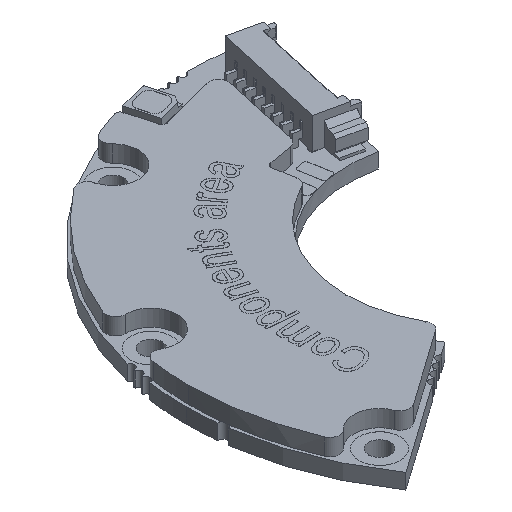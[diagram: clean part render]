
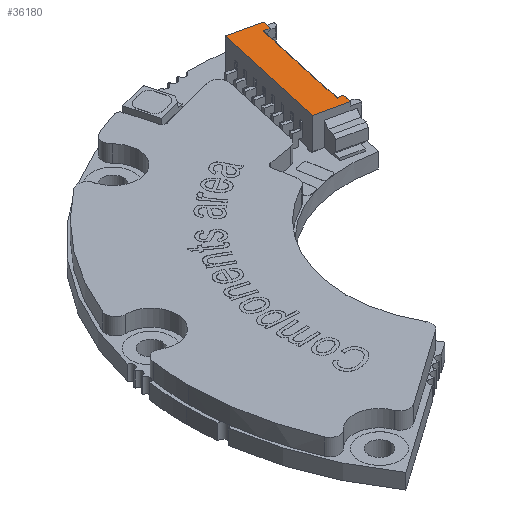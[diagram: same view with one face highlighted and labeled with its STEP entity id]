
A CAD part, isometric view. The second image highlights one B-rep face of the part: STEP entity #36180.
In plain terms, the highlighted planar face has unit normal (0, 0, 1).
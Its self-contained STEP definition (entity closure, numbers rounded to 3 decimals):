
#838 = PLANE ( 'NONE',  #18734 ) ;
#1149 = CARTESIAN_POINT ( 'NONE',  ( 4.166, 25.706, 3.45 ) ) ;
#1921 = VERTEX_POINT ( 'NONE', #12847 ) ;
#2156 = VECTOR ( 'NONE', #2566, 1000. ) ;
#2502 = LINE ( 'NONE', #16190, #21010 ) ;
#2519 = EDGE_CURVE ( 'NONE', #25811, #37664, #33019, .T. ) ;
#2566 = DIRECTION ( 'NONE',  ( -0.976, 0.217, 0. ) ) ;
#2722 = EDGE_CURVE ( 'NONE', #31595, #1921, #28006, .T. ) ;
#2728 = ORIENTED_EDGE ( 'NONE', *, *, #2519, .F. ) ;
#2752 = CARTESIAN_POINT ( 'NONE',  ( -0.88, 15.755, 3.45 ) ) ;
#4497 = LINE ( 'NONE', #11312, #18925 ) ;
#8965 = VECTOR ( 'NONE', #41570, 1000. ) ;
#11015 = EDGE_CURVE ( 'NONE', #25188, #43449, #41128, .T. ) ;
#11312 = CARTESIAN_POINT ( 'NONE',  ( 4.422, 26.853, 3.45 ) ) ;
#12847 = CARTESIAN_POINT ( 'NONE',  ( 4.723, 25.582, 3.45 ) ) ;
#12971 = ORIENTED_EDGE ( 'NONE', *, *, #25477, .T. ) ;
#14366 = EDGE_CURVE ( 'NONE', #1921, #37515, #2502, .T. ) ;
#14682 = CARTESIAN_POINT ( 'NONE',  ( -0.798, 15.737, 3.45 ) ) ;
#15142 = ORIENTED_EDGE ( 'NONE', *, *, #42576, .T. ) ;
#16010 = VECTOR ( 'NONE', #31090, 1000. ) ;
#16081 = ORIENTED_EDGE ( 'NONE', *, *, #2722, .T. ) ;
#16190 = CARTESIAN_POINT ( 'NONE',  ( 4.978, 26.729, 3.45 ) ) ;
#17159 = VECTOR ( 'NONE', #22285, 1000. ) ;
#17531 = ORIENTED_EDGE ( 'NONE', *, *, #14366, .T. ) ;
#18173 = ORIENTED_EDGE ( 'NONE', *, *, #18484, .F. ) ;
#18484 = EDGE_CURVE ( 'NONE', #37664, #37144, #38428, .T. ) ;
#18734 = AXIS2_PLACEMENT_3D ( 'NONE', #18870, #42377, #28649 ) ;
#18870 = CARTESIAN_POINT ( 'NONE',  ( 1.742, 27.449, 3.45 ) ) ;
#18925 = VECTOR ( 'NONE', #24845, 1000. ) ;
#19373 = LINE ( 'NONE', #32880, #16010 ) ;
#19724 = LINE ( 'NONE', #26847, #34673 ) ;
#21010 = VECTOR ( 'NONE', #27036, 1000. ) ;
#21193 = CARTESIAN_POINT ( 'NONE',  ( 2.578, 15.948, 3.45 ) ) ;
#21336 = DIRECTION ( 'NONE',  ( 0.976, -0.217, 0. ) ) ;
#22285 = DIRECTION ( 'NONE',  ( 0.217, 0.976, 0. ) ) ;
#22700 = ORIENTED_EDGE ( 'NONE', *, *, #11015, .T. ) ;
#24845 = DIRECTION ( 'NONE',  ( 0.217, 0.976, 0. ) ) ;
#25188 = VERTEX_POINT ( 'NONE', #21193 ) ;
#25376 = EDGE_LOOP ( 'NONE', ( #22700, #15142, #16081, #17531, #27472, #18173, #2728, #12971 ) ) ;
#25477 = EDGE_CURVE ( 'NONE', #25811, #25188, #19373, .T. ) ;
#25811 = VERTEX_POINT ( 'NONE', #33044 ) ;
#26847 = CARTESIAN_POINT ( 'NONE',  ( 5.936, 26.275, 3.45 ) ) ;
#27036 = DIRECTION ( 'NONE',  ( 0.217, 0.976, 0. ) ) ;
#27472 = ORIENTED_EDGE ( 'NONE', *, *, #28862, .F. ) ;
#27859 = CARTESIAN_POINT ( 'NONE',  ( -0.658, 16.668, 3.45 ) ) ;
#28006 = LINE ( 'NONE', #34577, #33216 ) ;
#28649 = DIRECTION ( 'NONE',  ( -0.217, -0.976, 0. ) ) ;
#28862 = EDGE_CURVE ( 'NONE', #37144, #37515, #19724, .T. ) ;
#29942 = CARTESIAN_POINT ( 'NONE',  ( 2.022, 16.072, 3.45 ) ) ;
#31068 = FACE_OUTER_BOUND ( 'NONE', #25376, .T. ) ;
#31090 = DIRECTION ( 'NONE',  ( 0.217, 0.976, 0. ) ) ;
#31595 = VERTEX_POINT ( 'NONE', #1149 ) ;
#32880 = CARTESIAN_POINT ( 'NONE',  ( 4.978, 26.729, 3.45 ) ) ;
#33019 = LINE ( 'NONE', #2752, #2156 ) ;
#33044 = CARTESIAN_POINT ( 'NONE',  ( 2.374, 15.031, 3.45 ) ) ;
#33216 = VECTOR ( 'NONE', #21336, 1000. ) ;
#34577 = CARTESIAN_POINT ( 'NONE',  ( 1.487, 26.303, 3.45 ) ) ;
#34673 = VECTOR ( 'NONE', #39641, 1000. ) ;
#35907 = CARTESIAN_POINT ( 'NONE',  ( 4.927, 26.5, 3.45 ) ) ;
#36180 = ADVANCED_FACE ( 'NONE', ( #31068 ), #838, .T. ) ;
#37144 = VERTEX_POINT ( 'NONE', #37276 ) ;
#37276 = CARTESIAN_POINT ( 'NONE',  ( 1.755, 27.206, 3.45 ) ) ;
#37515 = VERTEX_POINT ( 'NONE', #35907 ) ;
#37664 = VERTEX_POINT ( 'NONE', #14682 ) ;
#38428 = LINE ( 'NONE', #42215, #17159 ) ;
#39641 = DIRECTION ( 'NONE',  ( 0.976, -0.217, 0. ) ) ;
#41128 = LINE ( 'NONE', #27859, #8965 ) ;
#41570 = DIRECTION ( 'NONE',  ( -0.976, 0.217, 0. ) ) ;
#42215 = CARTESIAN_POINT ( 'NONE',  ( 1.806, 27.435, 3.45 ) ) ;
#42377 = DIRECTION ( 'NONE',  ( 0., 0., 1. ) ) ;
#42576 = EDGE_CURVE ( 'NONE', #43449, #31595, #4497, .T. ) ;
#43449 = VERTEX_POINT ( 'NONE', #29942 ) ;
